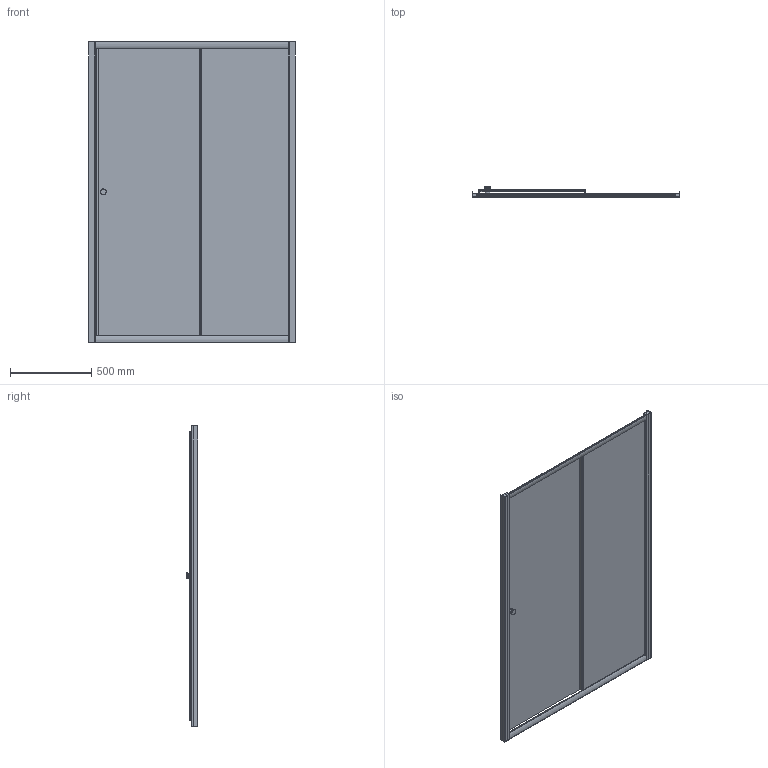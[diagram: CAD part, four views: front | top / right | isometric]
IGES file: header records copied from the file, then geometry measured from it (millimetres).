
Global section: file name: C:\Users\user\Downloads\MOOC_20160920_(2z2)\Bronx S2050 130\Bronx S-2050 130.igs; native system: Rhinoceros ( Feb  3 2015 ); preprocessor: Trout Lake IGES 012 Feb  3 2015; date: 161007.113729; units: millimetre
Bounding box: 1275 x 68.24 x 1851 mm (x, y, z)
Surface area: 7247817.7 mm2 (no closed solid volume)
Topology: 0 solids, 0 shells, 334 faces, 2192 edges, 2170 vertices
Faces by surface type: bspline 334
